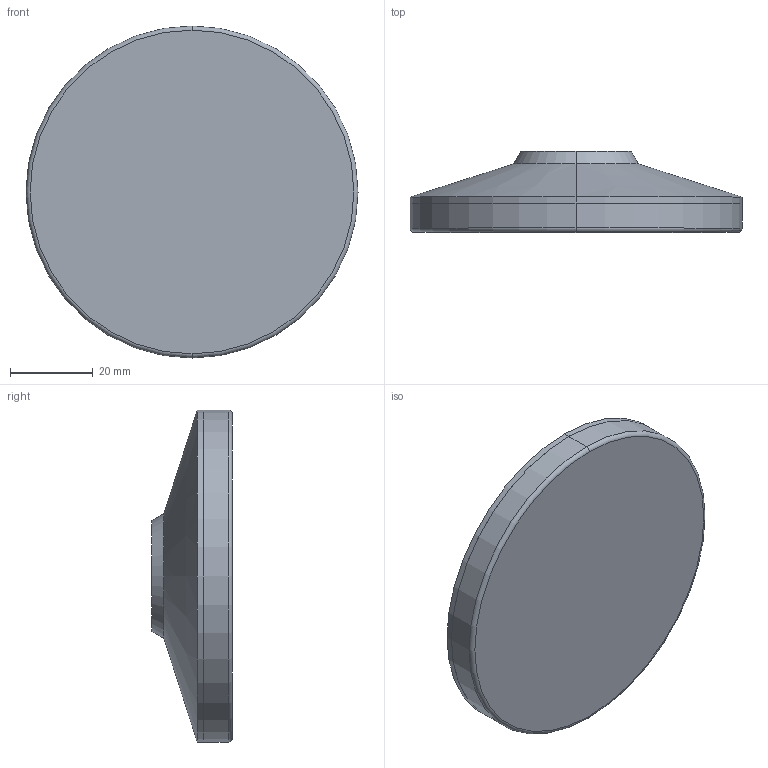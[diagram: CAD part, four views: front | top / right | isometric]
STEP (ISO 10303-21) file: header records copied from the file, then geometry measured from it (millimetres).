
FILE_DESCRIPTION (( 'STEP AP214' ), '1' );
FILE_NAME ('6311.3-80-18-R.step', '2023-04-17T05:34:31', ( '' ), ( '' ), 'SwSTEP 2.0', 'SolidWorks 2022', '' );
FILE_SCHEMA (( 'AUTOMOTIVE_DESIGN' ));
Length unit declared in the file: millimetre
Products named in the file (1): 6311.3-80-18-R
Bounding box: 80 x 19.5 x 80 mm (x, y, z)
Volume: 63508.5 mm3; surface area: 13911.9 mm2
Topology: 1 solids, 1 shells, 36 faces, 79 edges, 50 vertices
Faces by surface type: cylinder 16, plane 8, torus 6, cone 4, sphere 2
Entity records: 1150 total; most frequent: CARTESIAN_POINT 202, DIRECTION 201, ORIENTED_EDGE 158, AXIS2_PLACEMENT_3D 89, EDGE_CURVE 79, CIRCLE 52, VERTEX_POINT 50, EDGE_LOOP 41
